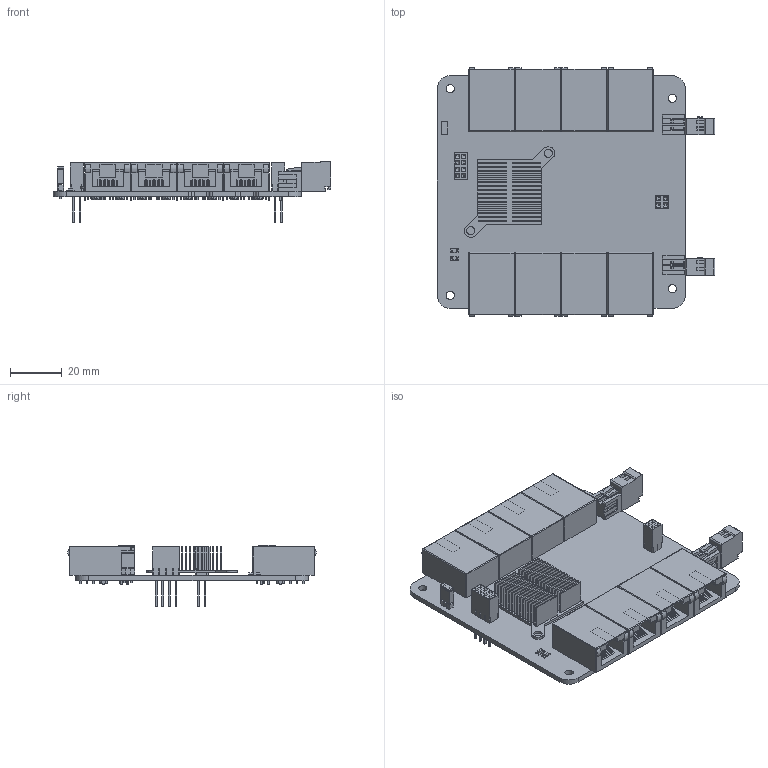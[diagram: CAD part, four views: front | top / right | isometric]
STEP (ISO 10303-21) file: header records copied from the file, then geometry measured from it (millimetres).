
FILE_DESCRIPTION(/* description */ ('PCB CS Ethernet Switch 8-port'),/* implementation_level */ '2;1');
FILE_NAME(/* name */ '117996 v5.step',/* time_stamp */ '2025-05-13T12:33:42+02:00',/* author */ (''),/* organization */ (''),/* preprocessor_version */ 'ST-DEVELOPER v20.1',/* originating_system */ 'Autodesk Translation Framework v14.4.0.0',/* authorisation */ '');
FILE_SCHEMA (('AUTOMOTIVE_DESIGN { 1 0 10303 214 3 1 1 }'));
Products named in the file (3): 117996; 100040; 100126
Assembly tree (3 placements, depth 2):
  117996
    100040  x2
    100126
Bounding box: 107.4 x 95.99 x 23.89 mm (x, y, z)
Volume: 54424.5 mm3; surface area: 50666.7 mm2
Topology: 20 solids, 20 shells, 2670 faces, 6756 edges, 4308 vertices
Faces by surface type: plane 2290, cylinder 276, cone 72, sphere 32
Full cylindrical faces by diameter (mm): 1.2 x4, 3.175 x2, 3.2 x4
Entity records: 76438 total; most frequent: CARTESIAN_POINT 12926, ORIENTED_EDGE 12630, DIRECTION 11863, EDGE_CURVE 6315, LINE 5825, VECTOR 5825, VERTEX_POINT 4060, AXIS2_PLACEMENT_3D 3019
